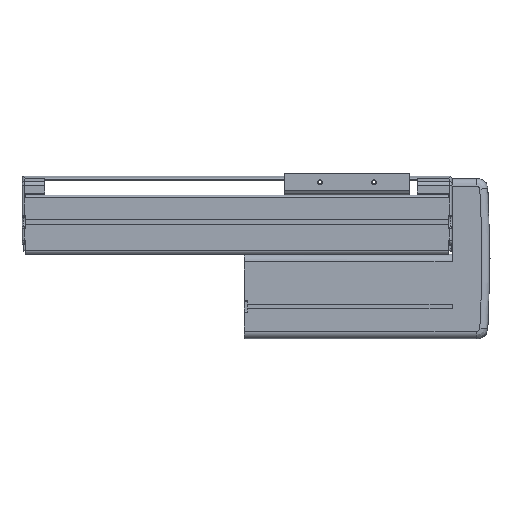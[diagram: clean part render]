
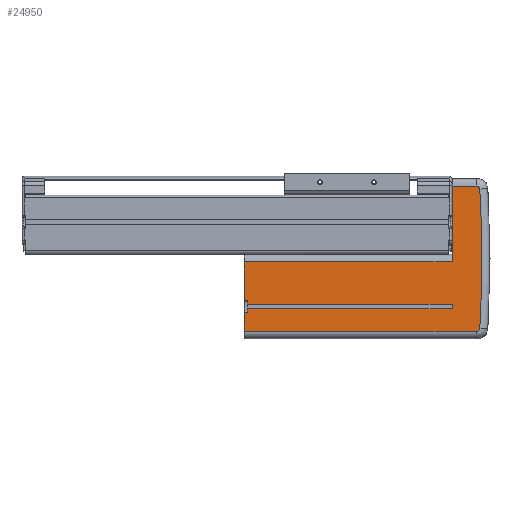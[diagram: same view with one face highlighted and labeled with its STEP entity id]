
A CAD part, top view. The second image highlights one B-rep face of the part: STEP entity #24950.
In plain terms, the highlighted planar face has unit normal (0, 0, 1).
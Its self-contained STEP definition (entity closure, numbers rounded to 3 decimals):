
#3383=DIRECTION('',(1.,0.,0.));
#3384=VECTOR('',#3383,22.587);
#3385=CARTESIAN_POINT('',(394.,-70.,33.));
#3386=LINE('',#3385,#3384);
#3395=DIRECTION('',(-1.,0.,0.));
#3396=VECTOR('',#3395,192.);
#3397=CARTESIAN_POINT('',(394.,-70.,33.));
#3398=LINE('',#3397,#3396);
#3399=DIRECTION('',(0.,-1.,0.));
#3400=VECTOR('',#3399,17.5);
#3401=CARTESIAN_POINT('',(202.,-52.5,33.));
#3402=LINE('',#3401,#3400);
#3403=DIRECTION('',(0.,-1.,0.));
#3404=VECTOR('',#3403,3.4);
#3405=CARTESIAN_POINT('',(205.,-49.1,33.));
#3406=LINE('',#3405,#3404);
#3407=DIRECTION('',(0.,1.,0.));
#3408=VECTOR('',#3407,4.2);
#3409=CARTESIAN_POINT('',(394.,-49.1,33.));
#3410=LINE('',#3409,#3408);
#3411=DIRECTION('',(0.,-1.,0.));
#3412=VECTOR('',#3411,3.4);
#3413=CARTESIAN_POINT('',(205.,-41.5,33.));
#3414=LINE('',#3413,#3412);
#3415=DIRECTION('',(0.,-1.,0.));
#3416=VECTOR('',#3415,35.5);
#3417=CARTESIAN_POINT('',(202.,-6.,33.));
#3418=LINE('',#3417,#3416);
#3419=DIRECTION('',(0.,1.,0.));
#3420=VECTOR('',#3419,70.);
#3421=CARTESIAN_POINT('',(394.,-6.,33.));
#3422=LINE('',#3421,#3420);
#3423=CARTESIAN_POINT('',(416.587,60.999,33.));
#3424=DIRECTION('',(0.,0.,-1.));
#3425=DIRECTION('',(0.,1.,0.));
#3426=AXIS2_PLACEMENT_3D('',#3423,#3424,#3425);
#3428=CARTESIAN_POINT('',(-571.,-3.,33.));
#3429=DIRECTION('',(0.,0.,-1.));
#3430=DIRECTION('',(0.998,0.065,0.));
#3431=AXIS2_PLACEMENT_3D('',#3428,#3429,#3430);
#3433=CARTESIAN_POINT('',(416.587,-66.999,33.));
#3434=DIRECTION('',(0.,0.,-1.));
#3435=DIRECTION('',(0.998,-0.065,0.));
#3436=AXIS2_PLACEMENT_3D('',#3433,#3434,#3435);
#3438=DIRECTION('',(-1.,0.,0.));
#3439=VECTOR('',#3438,3.);
#3440=CARTESIAN_POINT('',(205.,-52.5,33.));
#3441=LINE('',#3440,#3439);
#3470=DIRECTION('',(1.,0.,0.));
#3471=VECTOR('',#3470,3.);
#3472=CARTESIAN_POINT('',(202.,-41.5,33.));
#3473=LINE('',#3472,#3471);
#3478=DIRECTION('',(-1.,0.,0.));
#3479=VECTOR('',#3478,189.);
#3480=CARTESIAN_POINT('',(394.,-49.1,33.));
#3481=LINE('',#3480,#3479);
#13833=DIRECTION('',(-1.,0.,0.));
#13834=VECTOR('',#13833,192.);
#13835=CARTESIAN_POINT('',(394.,-6.,33.));
#13836=LINE('',#13835,#13834);
#15029=DIRECTION('',(-1.,0.,0.));
#15030=VECTOR('',#15029,22.587);
#15031=CARTESIAN_POINT('',(416.587,64.,33.));
#15032=LINE('',#15031,#15030);
#15062=DIRECTION('',(1.,0.,0.));
#15063=VECTOR('',#15062,189.);
#15064=CARTESIAN_POINT('',(205.,-44.9,33.));
#15065=LINE('',#15064,#15063);
#16053=CARTESIAN_POINT('',(202.,-6.,33.));
#16054=CARTESIAN_POINT('',(202.,-41.5,33.));
#16055=VERTEX_POINT('',#16053);
#16056=VERTEX_POINT('',#16054);
#16065=CARTESIAN_POINT('',(202.,-52.5,33.));
#16066=VERTEX_POINT('',#16065);
#16067=CARTESIAN_POINT('',(202.,-70.,33.));
#16068=VERTEX_POINT('',#16067);
#16190=CARTESIAN_POINT('',(394.,64.,33.));
#16192=VERTEX_POINT('',#16190);
#16205=CARTESIAN_POINT('',(416.587,-70.,
33.));
#16206=VERTEX_POINT('',#16205);
#16207=CARTESIAN_POINT('',(419.582,-67.194,
33.));
#16208=VERTEX_POINT('',#16207);
#16209=CARTESIAN_POINT('',(419.582,61.194,33.));
#16210=VERTEX_POINT('',#16209);
#16211=CARTESIAN_POINT('',(416.587,64.,33.));
#16212=VERTEX_POINT('',#16211);
#16435=CARTESIAN_POINT('',(205.,-44.9,33.));
#16437=VERTEX_POINT('',#16435);
#16448=CARTESIAN_POINT('',(205.,-49.1,33.));
#16449=VERTEX_POINT('',#16448);
#19652=CARTESIAN_POINT('',(205.,-52.5,33.));
#19654=VERTEX_POINT('',#19652);
#19662=CARTESIAN_POINT('',(205.,-41.5,33.));
#19663=VERTEX_POINT('',#19662);
#19830=CARTESIAN_POINT('',(394.,-6.,33.));
#19831=VERTEX_POINT('',#19830);
#19832=CARTESIAN_POINT('',(394.,-44.9,33.));
#19833=VERTEX_POINT('',#19832);
#19834=CARTESIAN_POINT('',(394.,-49.1,33.));
#19835=VERTEX_POINT('',#19834);
#19836=CARTESIAN_POINT('',(394.,-70.,33.));
#19837=VERTEX_POINT('',#19836);
#24917=CARTESIAN_POINT('',(299.5,-25.45,33.));
#24918=DIRECTION('',(0.,0.,1.));
#24919=DIRECTION('',(0.,1.,0.));
#24920=AXIS2_PLACEMENT_3D('',#24917,#24918,#24919);
#24921=PLANE('',#24920);
#24922=ORIENTED_EDGE('',*,*,#24908,.F.);
#24923=ORIENTED_EDGE('',*,*,#24906,.T.);
#24924=ORIENTED_EDGE('',*,*,#21370,.F.);
#24926=ORIENTED_EDGE('',*,*,#24925,.F.);
#24927=ORIENTED_EDGE('',*,*,#22792,.F.);
#24929=ORIENTED_EDGE('',*,*,#24928,.F.);
#24931=ORIENTED_EDGE('',*,*,#24930,.T.);
#24933=ORIENTED_EDGE('',*,*,#24932,.F.);
#24934=ORIENTED_EDGE('',*,*,#22776,.F.);
#24936=ORIENTED_EDGE('',*,*,#24935,.F.);
#24937=ORIENTED_EDGE('',*,*,#21358,.F.);
#24939=ORIENTED_EDGE('',*,*,#24938,.F.);
#24941=ORIENTED_EDGE('',*,*,#24940,.T.);
#24943=ORIENTED_EDGE('',*,*,#24942,.F.);
#24945=ORIENTED_EDGE('',*,*,#24944,.T.);
#24946=ORIENTED_EDGE('',*,*,#24868,.T.);
#24947=ORIENTED_EDGE('',*,*,#24895,.T.);
#24948=EDGE_LOOP('',(#24922,#24923,#24924,#24926,#24927,#24929,#24931,#24933,
#24934,#24936,#24937,#24939,#24941,#24943,#24945,#24946,#24947));
#24949=FACE_OUTER_BOUND('',#24948,.F.);
#24950=ADVANCED_FACE('',(#24949),#24921,.T.);
#3427=CIRCLE('',#3426,3.001);
#3432=CIRCLE('',#3431,992.66);
#3437=CIRCLE('',#3436,3.001);
#21358=EDGE_CURVE('',#16055,#16056,#3418,.T.);
#21370=EDGE_CURVE('',#16066,#16068,#3402,.T.);
#22776=EDGE_CURVE('',#19663,#16437,#3414,.T.);
#22792=EDGE_CURVE('',#16449,#19654,#3406,.T.);
#24868=EDGE_CURVE('',#16210,#16208,#3432,.T.);
#24895=EDGE_CURVE('',#16208,#16206,#3437,.T.);
#24906=EDGE_CURVE('',#19837,#16068,#3398,.T.);
#24908=EDGE_CURVE('',#19837,#16206,#3386,.T.);
#24925=EDGE_CURVE('',#19654,#16066,#3441,.T.);
#24928=EDGE_CURVE('',#19835,#16449,#3481,.T.);
#24930=EDGE_CURVE('',#19835,#19833,#3410,.T.);
#24932=EDGE_CURVE('',#16437,#19833,#15065,.T.);
#24935=EDGE_CURVE('',#16056,#19663,#3473,.T.);
#24938=EDGE_CURVE('',#19831,#16055,#13836,.T.);
#24940=EDGE_CURVE('',#19831,#16192,#3422,.T.);
#24942=EDGE_CURVE('',#16212,#16192,#15032,.T.);
#24944=EDGE_CURVE('',#16212,#16210,#3427,.T.);
